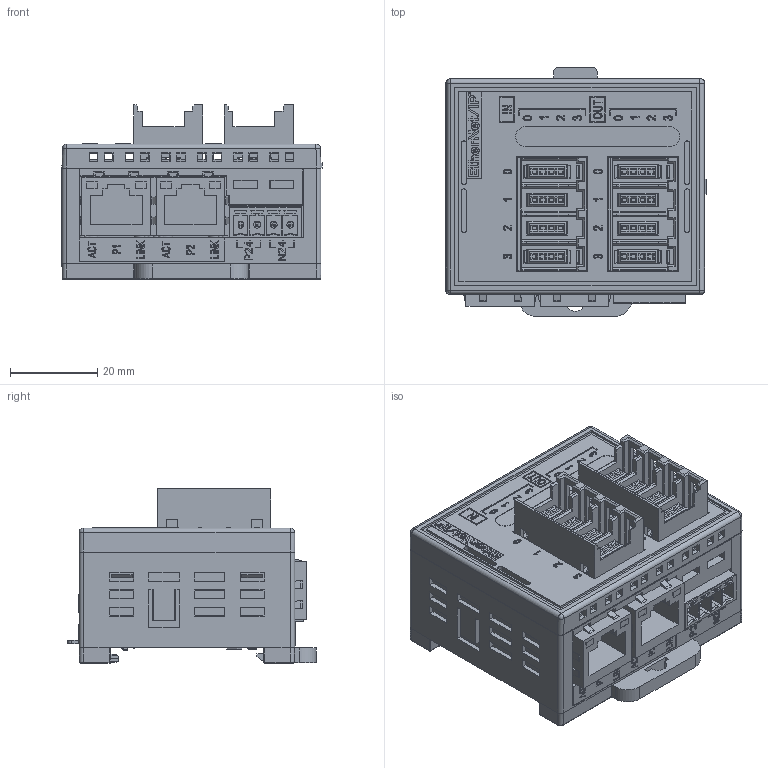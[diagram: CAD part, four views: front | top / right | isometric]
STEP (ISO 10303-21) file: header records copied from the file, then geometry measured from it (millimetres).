
FILE_DESCRIPTION((''),'2;1');
FILE_NAME('EICEP44','2026-05-11T14:15:31',('gijyu181'),(''),'CREO PARAMETRIC BY PTC INC, 2018050','CREO PARAMETRIC BY PTC INC, 2018050','');
FILE_SCHEMA(('CONFIG_CONTROL_DESIGN','SHAPE_APPEARANCE_LAYERS_GROUPS'));
Products named in the file (1): EICEP44
Bounding box: 59.75 x 57.15 x 40 mm (x, y, z)
Volume: 70223 mm3; surface area: 41038.6 mm2
Topology: 1 solids, 15 shells, 7489 faces, 21242 edges, 14057 vertices
Faces by surface type: plane 5734, cylinder 900, extrusion 741, sphere 44, torus 26, bspline 24, cone 20
Entity records: 304139 total; most frequent: CARTESIAN_POINT 52225, ORIENTED_EDGE 42456, DIRECTION 35442, EDGE_CURVE 21232, VECTOR 18200, LINE 17459, VERTEX_POINT 14057, PRESENTATION_STYLE_ASSIGNMENT 11084
